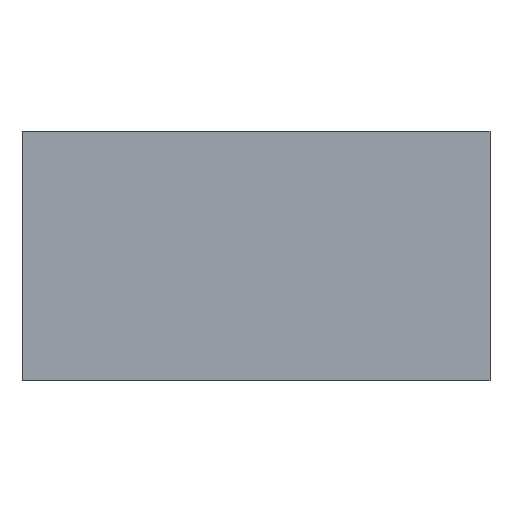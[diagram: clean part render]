
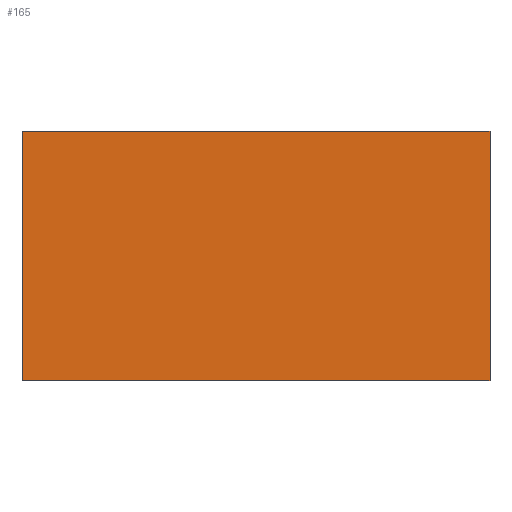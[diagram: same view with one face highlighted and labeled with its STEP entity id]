
A CAD part, front view. The second image highlights one B-rep face of the part: STEP entity #165.
In plain terms, the highlighted planar face has unit normal (0, -1, 0).
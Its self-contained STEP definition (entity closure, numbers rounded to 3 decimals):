
#18 = EDGE_CURVE ( 'NONE', #86, #65, #287, .T. ) ;
#26 = EDGE_CURVE ( 'NONE', #99, #98, #299, .T. ) ;
#51 = EDGE_CURVE ( 'NONE', #65, #98, #307, .T. ) ;
#65 = VERTEX_POINT ( 'NONE', #409 ) ;
#80 = CARTESIAN_POINT ( 'NONE',  ( -63.5, -5.5, -17.9 ) ) ;
#84 = DIRECTION ( 'NONE',  ( 0., 0., 1. ) ) ;
#86 = VERTEX_POINT ( 'NONE', #372 ) ;
#98 = VERTEX_POINT ( 'NONE', #360 ) ;
#99 = VERTEX_POINT ( 'NONE', #356 ) ;
#133 = AXIS2_PLACEMENT_3D ( 'NONE', #442, #433, #432 ) ;
#165 = ADVANCED_FACE ( 'NONE', ( #533 ), #438, .F. ) ;
#187 = EDGE_LOOP ( 'NONE', ( #208, #206, #221, #248 ) ) ;
#206 = ORIENTED_EDGE ( 'NONE', *, *, #51, .F. ) ;
#208 = ORIENTED_EDGE ( 'NONE', *, *, #26, .T. ) ;
#221 = ORIENTED_EDGE ( 'NONE', *, *, #18, .F. ) ;
#248 = ORIENTED_EDGE ( 'NONE', *, *, #537, .T. ) ;
#287 = LINE ( 'NONE', #80, #288 ) ;
#288 = VECTOR ( 'NONE', #84, 1000. ) ;
#299 = LINE ( 'NONE', #422, #300 ) ;
#300 = VECTOR ( 'NONE', #421, 1000. ) ;
#307 = LINE ( 'NONE', #399, #312 ) ;
#312 = VECTOR ( 'NONE', #404, 1000. ) ;
#356 = CARTESIAN_POINT ( 'NONE',  ( 63.5, -5.5, -17.9 ) ) ;
#360 = CARTESIAN_POINT ( 'NONE',  ( 63.5, -5.5, 49.7 ) ) ;
#372 = CARTESIAN_POINT ( 'NONE',  ( -63.5, -5.5, -17.9 ) ) ;
#394 = DIRECTION ( 'NONE',  ( 1., 0., 0. ) ) ;
#398 = CARTESIAN_POINT ( 'NONE',  ( -63.5, -5.5, -17.9 ) ) ;
#399 = CARTESIAN_POINT ( 'NONE',  ( -63.5, -5.5, 49.7 ) ) ;
#404 = DIRECTION ( 'NONE',  ( 1., 0., 0. ) ) ;
#409 = CARTESIAN_POINT ( 'NONE',  ( -63.5, -5.5, 49.7 ) ) ;
#421 = DIRECTION ( 'NONE',  ( 0., 0., 1. ) ) ;
#422 = CARTESIAN_POINT ( 'NONE',  ( 63.5, -5.5, -17.9 ) ) ;
#432 = DIRECTION ( 'NONE',  ( 0., 0., -1. ) ) ;
#433 = DIRECTION ( 'NONE',  ( 0., 1., 0. ) ) ;
#438 = PLANE ( 'NONE',  #133 ) ;
#442 = CARTESIAN_POINT ( 'NONE',  ( -63.5, -5.5, -17.9 ) ) ;
#503 = LINE ( 'NONE', #398, #522 ) ;
#522 = VECTOR ( 'NONE', #394, 1000. ) ;
#533 = FACE_OUTER_BOUND ( 'NONE', #187, .T. ) ;
#537 = EDGE_CURVE ( 'NONE', #86, #99, #503, .T. ) ;
